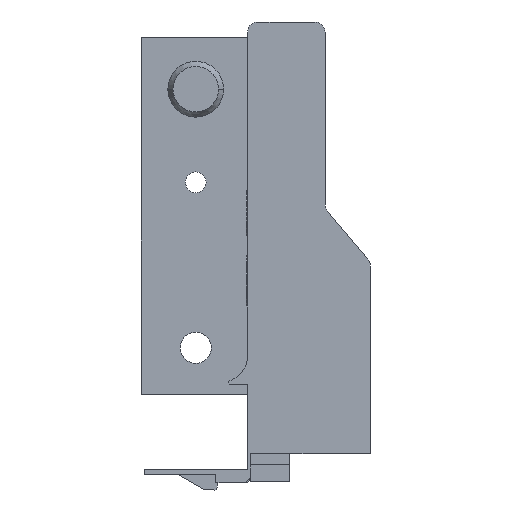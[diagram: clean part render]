
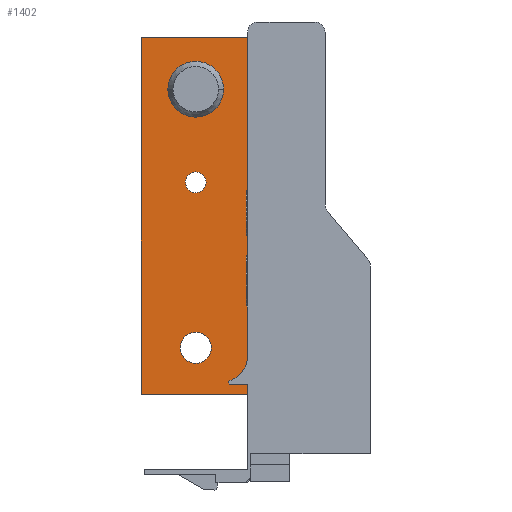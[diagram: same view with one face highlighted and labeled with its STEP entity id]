
A CAD part, front view. The second image highlights one B-rep face of the part: STEP entity #1402.
In plain terms, the highlighted planar face has unit normal (0, -1, 0).
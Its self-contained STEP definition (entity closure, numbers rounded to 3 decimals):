
#52 = EDGE_LOOP ( 'NONE', ( #209, #208 ) ) ;
#69 = EDGE_LOOP ( 'NONE', ( #207, #206 ) ) ;
#72 = EDGE_LOOP ( 'NONE', ( #205, #204 ) ) ;
#74 = EDGE_LOOP ( 'NONE', ( #203, #202, #201, #200, #199, #198 ) ) ;
#198 = ORIENTED_EDGE ( 'NONE', *, *, #777, .F. ) ;
#199 = ORIENTED_EDGE ( 'NONE', *, *, #934, .T. ) ;
#200 = ORIENTED_EDGE ( 'NONE', *, *, #776, .T. ) ;
#201 = ORIENTED_EDGE ( 'NONE', *, *, #940, .T. ) ;
#202 = ORIENTED_EDGE ( 'NONE', *, *, #939, .F. ) ;
#203 = ORIENTED_EDGE ( 'NONE', *, *, #938, .F. ) ;
#204 = ORIENTED_EDGE ( 'NONE', *, *, #766, .T. ) ;
#205 = ORIENTED_EDGE ( 'NONE', *, *, #937, .T. ) ;
#206 = ORIENTED_EDGE ( 'NONE', *, *, #762, .T. ) ;
#207 = ORIENTED_EDGE ( 'NONE', *, *, #936, .T. ) ;
#208 = ORIENTED_EDGE ( 'NONE', *, *, #753, .F. ) ;
#209 = ORIENTED_EDGE ( 'NONE', *, *, #935, .F. ) ;
#583 = PLANE ( 'NONE',  #2059 ) ;
#584 = CARTESIAN_POINT ( 'NONE',  ( -21.1, 497.2, 27. ) ) ;
#585 = DIRECTION ( 'NONE',  ( 0., -1., 0. ) ) ;
#586 = DIRECTION ( 'NONE',  ( 1., 0., 0. ) ) ;
#753 = EDGE_CURVE ( 'NONE', #1311, #1300, #2701, .T. ) ;
#762 = EDGE_CURVE ( 'NONE', #1170, #1315, #2532, .T. ) ;
#766 = EDGE_CURVE ( 'NONE', #1287, #1302, #2733, .T. ) ;
#776 = EDGE_CURVE ( 'NONE', #1309, #1303, #2561, .T. ) ;
#777 = EDGE_CURVE ( 'NONE', #1242, #1247, #2581, .T. ) ;
#934 = EDGE_CURVE ( 'NONE', #1303, #1247, #2345, .T. ) ;
#935 = EDGE_CURVE ( 'NONE', #1300, #1311, #2343, .T. ) ;
#936 = EDGE_CURVE ( 'NONE', #1315, #1170, #2342, .T. ) ;
#937 = EDGE_CURVE ( 'NONE', #1302, #1287, #2339, .T. ) ;
#938 = EDGE_CURVE ( 'NONE', #1167, #1242, #2340, .T. ) ;
#939 = EDGE_CURVE ( 'NONE', #1219, #1167, #2337, .T. ) ;
#940 = EDGE_CURVE ( 'NONE', #1219, #1309, #2335, .T. ) ;
#987 = AXIS2_PLACEMENT_3D ( 'NONE', #1135, #1134, #1118 ) ;
#991 = AXIS2_PLACEMENT_3D ( 'NONE', #1151, #1153, #1152 ) ;
#993 = AXIS2_PLACEMENT_3D ( 'NONE', #1177, #1123, #1106 ) ;
#1026 = AXIS2_PLACEMENT_3D ( 'NONE', #1759, #1760, #1761 ) ;
#1027 = AXIS2_PLACEMENT_3D ( 'NONE', #1762, #1763, #1764 ) ;
#1028 = AXIS2_PLACEMENT_3D ( 'NONE', #1765, #1766, #1767 ) ;
#1106 = DIRECTION ( 'NONE',  ( 1., 0., 0. ) ) ;
#1118 = DIRECTION ( 'NONE',  ( 1., 0., 0. ) ) ;
#1123 = DIRECTION ( 'NONE',  ( 0., 1., 0. ) ) ;
#1134 = DIRECTION ( 'NONE',  ( 0., -1., 0. ) ) ;
#1135 = CARTESIAN_POINT ( 'NONE',  ( -31.5, 497.2, 57. ) ) ;
#1151 = CARTESIAN_POINT ( 'NONE',  ( -31.5, 497.2, 7. ) ) ;
#1152 = DIRECTION ( 'NONE',  ( 1., 0., 0. ) ) ;
#1153 = DIRECTION ( 'NONE',  ( 0., 1., 0. ) ) ;
#1167 = VERTEX_POINT ( 'NONE', #1905 ) ;
#1170 = VERTEX_POINT ( 'NONE', #1907 ) ;
#1177 = CARTESIAN_POINT ( 'NONE',  ( -31.5, 497.2, 39. ) ) ;
#1219 = VERTEX_POINT ( 'NONE', #1942 ) ;
#1242 = VERTEX_POINT ( 'NONE', #1964 ) ;
#1247 = VERTEX_POINT ( 'NONE', #1969 ) ;
#1287 = VERTEX_POINT ( 'NONE', #2003 ) ;
#1300 = VERTEX_POINT ( 'NONE', #2016 ) ;
#1302 = VERTEX_POINT ( 'NONE', #2018 ) ;
#1303 = VERTEX_POINT ( 'NONE', #2019 ) ;
#1309 = VERTEX_POINT ( 'NONE', #2025 ) ;
#1311 = VERTEX_POINT ( 'NONE', #2027 ) ;
#1315 = VERTEX_POINT ( 'NONE', #2031 ) ;
#1335 = CARTESIAN_POINT ( 'NONE',  ( -21.1, 497.2, 27. ) ) ;
#1336 = DIRECTION ( 'NONE',  ( 1., 0., 0. ) ) ;
#1337 = CARTESIAN_POINT ( 'NONE',  ( -21.1, 497.2, 67. ) ) ;
#1338 = DIRECTION ( 'NONE',  ( 1., 0., 0. ) ) ;
#1402 = ADVANCED_FACE ( 'NONE', ( #2175, #2174, #2173, #2172 ), #583, .T. ) ;
#1757 = CARTESIAN_POINT ( 'NONE',  ( -21.1, 497.2, 27. ) ) ;
#1758 = DIRECTION ( 'NONE',  ( 0., 0., 1. ) ) ;
#1759 = CARTESIAN_POINT ( 'NONE',  ( -31.5, 497.2, 57. ) ) ;
#1760 = DIRECTION ( 'NONE',  ( 0., -1., 0. ) ) ;
#1761 = DIRECTION ( 'NONE',  ( 1., 0., 0. ) ) ;
#1762 = CARTESIAN_POINT ( 'NONE',  ( -31.5, 497.2, 7. ) ) ;
#1763 = DIRECTION ( 'NONE',  ( 0., 1., 0. ) ) ;
#1764 = DIRECTION ( 'NONE',  ( 1., 0., 0. ) ) ;
#1765 = CARTESIAN_POINT ( 'NONE',  ( -31.5, 497.2, 39. ) ) ;
#1766 = DIRECTION ( 'NONE',  ( 0., 1., 0. ) ) ;
#1767 = DIRECTION ( 'NONE',  ( 1., 0., 0. ) ) ;
#1768 = CARTESIAN_POINT ( 'NONE',  ( -42., 497.2, 27. ) ) ;
#1769 = DIRECTION ( 'NONE',  ( 0., 0., 1. ) ) ;
#1770 = CARTESIAN_POINT ( 'NONE',  ( -21.5, 497.2, -2. ) ) ;
#1771 = DIRECTION ( 'NONE',  ( -1., 0., 0. ) ) ;
#1772 = CARTESIAN_POINT ( 'NONE',  ( -21.5, 497.2, -2. ) ) ;
#1773 = DIRECTION ( 'NONE',  ( 0., 0., 1. ) ) ;
#1905 = CARTESIAN_POINT ( 'NONE',  ( -42., 497.2, -2. ) ) ;
#1907 = CARTESIAN_POINT ( 'NONE',  ( -28.5, 497.2, 7. ) ) ;
#1942 = CARTESIAN_POINT ( 'NONE',  ( -21.5, 497.2, -2. ) ) ;
#1964 = CARTESIAN_POINT ( 'NONE',  ( -42., 497.2, 67. ) ) ;
#1969 = CARTESIAN_POINT ( 'NONE',  ( -21.1, 497.2, 67. ) ) ;
#2003 = CARTESIAN_POINT ( 'NONE',  ( -29.5, 497.2, 39. ) ) ;
#2016 = CARTESIAN_POINT ( 'NONE',  ( -36.9, 497.2, 57. ) ) ;
#2018 = CARTESIAN_POINT ( 'NONE',  ( -33.5, 497.2, 39. ) ) ;
#2019 = CARTESIAN_POINT ( 'NONE',  ( -21.1, 497.2, 27. ) ) ;
#2025 = CARTESIAN_POINT ( 'NONE',  ( -21.5, 497.2, 27. ) ) ;
#2027 = CARTESIAN_POINT ( 'NONE',  ( -26.1, 497.2, 57. ) ) ;
#2031 = CARTESIAN_POINT ( 'NONE',  ( -34.5, 497.2, 7. ) ) ;
#2059 = AXIS2_PLACEMENT_3D ( 'NONE', #584, #585, #586 ) ;
#2172 = FACE_OUTER_BOUND ( 'NONE', #74, .T. ) ;
#2173 = FACE_BOUND ( 'NONE', #72, .T. ) ;
#2174 = FACE_BOUND ( 'NONE', #69, .T. ) ;
#2175 = FACE_BOUND ( 'NONE', #52, .T. ) ;
#2334 = VECTOR ( 'NONE', #1773, 1000. ) ;
#2335 = LINE ( 'NONE', #1772, #2334 ) ;
#2336 = VECTOR ( 'NONE', #1771, 1000. ) ;
#2337 = LINE ( 'NONE', #1770, #2336 ) ;
#2338 = VECTOR ( 'NONE', #1769, 1000. ) ;
#2339 = CIRCLE ( 'NONE', #1028, 2. ) ;
#2340 = LINE ( 'NONE', #1768, #2338 ) ;
#2342 = CIRCLE ( 'NONE', #1027, 3. ) ;
#2343 = CIRCLE ( 'NONE', #1026, 5.4 ) ;
#2344 = VECTOR ( 'NONE', #1758, 1000. ) ;
#2345 = LINE ( 'NONE', #1757, #2344 ) ;
#2516 = VECTOR ( 'NONE', #1338, 1000. ) ;
#2532 = CIRCLE ( 'NONE', #991, 3. ) ;
#2561 = LINE ( 'NONE', #1335, #2833 ) ;
#2581 = LINE ( 'NONE', #1337, #2516 ) ;
#2701 = CIRCLE ( 'NONE', #987, 5.4 ) ;
#2733 = CIRCLE ( 'NONE', #993, 2. ) ;
#2833 = VECTOR ( 'NONE', #1336, 1000. ) ;
